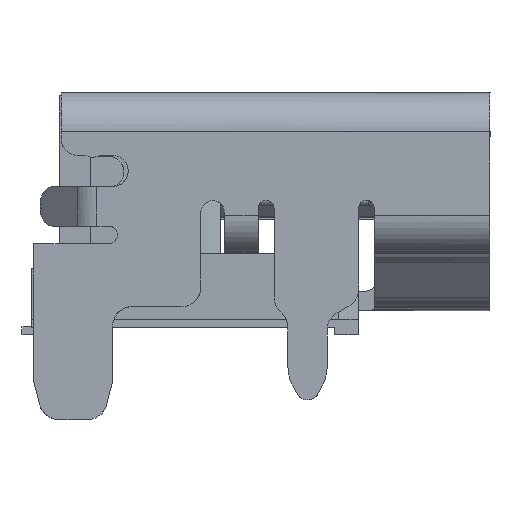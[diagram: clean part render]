
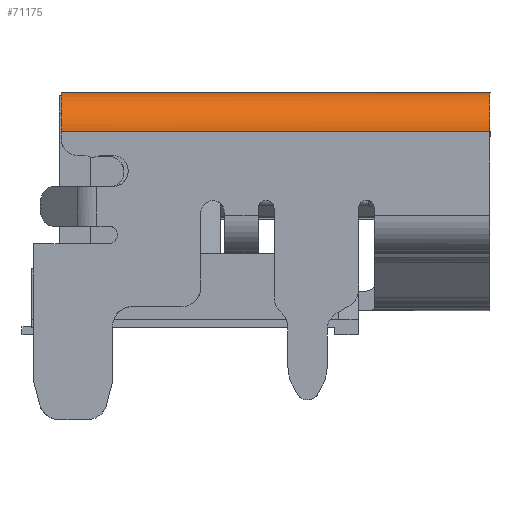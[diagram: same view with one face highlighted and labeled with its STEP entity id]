
A CAD part, left-side view. The second image highlights one B-rep face of the part: STEP entity #71175.
In plain terms, the highlighted free-form (B-spline) face has degree [1, 3] with [2, 4] control points.
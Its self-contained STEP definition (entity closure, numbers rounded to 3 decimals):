
#719 = B_SPLINE_CURVE_WITH_KNOTS ( 'NONE', 1,
 ( #69038, #51546 ),
 .UNSPECIFIED., .F., .F.,
 ( 2, 2 ),
 ( -1., 0. ),
 .UNSPECIFIED. ) ;
#2962 = EDGE_CURVE ( 'NONE', #20711, #57926, #23726, .T. ) ;
#4643 = CARTESIAN_POINT ( 'NONE',  ( -7.301, -6.702, 5.773 ) ) ;
#10678 = CARTESIAN_POINT ( 'NONE',  ( -7.5, 4.198, 5.746 ) ) ;
#13765 = CARTESIAN_POINT ( 'NONE',  ( -6.5, 4.198, 6.16 ) ) ;
#16439 = CARTESIAN_POINT ( 'NONE',  ( -7.5, -6.702, 5.16 ) ) ;
#16473 = ORIENTED_EDGE ( 'NONE', *, *, #69339, .T. ) ;
#20711 = VERTEX_POINT ( 'NONE', #27338 ) ;
#20987 = CARTESIAN_POINT ( 'NONE',  ( -7.5, -6.702, 5.16 ) ) ;
#21138 = CARTESIAN_POINT ( 'NONE',  ( -7.086, 4.198, 6.16 ) ) ;
#23478 = EDGE_LOOP ( 'NONE', ( #43750, #52734, #16473, #56842 ) ) ;
#23726 = B_SPLINE_CURVE_WITH_KNOTS ( 'NONE', 3,
 ( #38050, #65798, #47937, #26043, #60372, #4643, #36631, #31136, #53459, #36970 ),
 .UNSPECIFIED., .F., .F.,
 ( 4, 2, 2, 2, 4 ),
 ( 0., 0.25, 0.5, 0.75, 1. ),
 .UNSPECIFIED. ) ;
#24657 =( BOUNDED_CURVE ( )  B_SPLINE_CURVE ( 3, ( #35484, #57784, #65373, #47521 ),
 .UNSPECIFIED., .F., .F. ) 
 B_SPLINE_CURVE_WITH_KNOTS ( ( 4, 4 ),
 ( -3.142, -1.571 ),
 .UNSPECIFIED. ) 
 CURVE ( )  GEOMETRIC_REPRESENTATION_ITEM ( )  RATIONAL_B_SPLINE_CURVE ( ( 1., 0.805, 0.805, 1. ) ) 
 REPRESENTATION_ITEM ( '' )  );
#26043 = CARTESIAN_POINT ( 'NONE',  ( -7.005, -6.702, 6.033 ) ) ;
#27338 = CARTESIAN_POINT ( 'NONE',  ( -6.5, -6.702, 6.16 ) ) ;
#31136 = CARTESIAN_POINT ( 'NONE',  ( -7.475, -6.702, 5.42 ) ) ;
#32759 = CARTESIAN_POINT ( 'NONE',  ( -7.5, 4.198, 5.16 ) ) ;
#32906 = EDGE_CURVE ( 'NONE', #59553, #20711, #49058, .T. ) ;
#35484 = CARTESIAN_POINT ( 'NONE',  ( -6.5, 4.198, 6.16 ) ) ;
#36631 = CARTESIAN_POINT ( 'NONE',  ( -7.373, -6.702, 5.665 ) ) ;
#36970 = CARTESIAN_POINT ( 'NONE',  ( -7.5, -6.702, 5.16 ) ) ;
#38050 = CARTESIAN_POINT ( 'NONE',  ( -6.5, -6.702, 6.16 ) ) ;
#43750 = ORIENTED_EDGE ( 'NONE', *, *, #32906, .F. ) ;
#44287 = EDGE_CURVE ( 'NONE', #59553, #71964, #24657, .T. ) ;
#47521 = CARTESIAN_POINT ( 'NONE',  ( -7.5, 4.198, 5.16 ) ) ;
#47937 = CARTESIAN_POINT ( 'NONE',  ( -6.76, -6.702, 6.135 ) ) ;
#49058 = B_SPLINE_CURVE_WITH_KNOTS ( 'NONE', 1,
 ( #61030, #49676 ),
 .UNSPECIFIED., .F., .F.,
 ( 2, 2 ),
 ( 0., 1. ),
 .UNSPECIFIED. ) ;
#49676 = CARTESIAN_POINT ( 'NONE',  ( -6.5, -6.702, 6.16 ) ) ;
#51546 = CARTESIAN_POINT ( 'NONE',  ( -7.5, -6.702, 5.16 ) ) ;
#52734 = ORIENTED_EDGE ( 'NONE', *, *, #44287, .T. ) ;
#53459 = CARTESIAN_POINT ( 'NONE',  ( -7.5, -6.702, 5.293 ) ) ;
#53993 = CARTESIAN_POINT ( 'NONE',  ( -6.5, 4.198, 6.16 ) ) ;
#54722 = CARTESIAN_POINT ( 'NONE',  ( -7.5, 4.198, 5.16 ) ) ;
#56842 = ORIENTED_EDGE ( 'NONE', *, *, #2962, .F. ) ;
#57784 = CARTESIAN_POINT ( 'NONE',  ( -7.086, 4.198, 6.16 ) ) ;
#57926 = VERTEX_POINT ( 'NONE', #20987 ) ;
#59553 = VERTEX_POINT ( 'NONE', #13765 ) ;
#59820 = CARTESIAN_POINT ( 'NONE',  ( -6.5, -6.702, 6.16 ) ) ;
#60372 = CARTESIAN_POINT ( 'NONE',  ( -7.113, -6.702, 5.961 ) ) ;
#61030 = CARTESIAN_POINT ( 'NONE',  ( -6.5, 4.198, 6.16 ) ) ;
#64914 = FACE_OUTER_BOUND ( 'NONE', #23478, .T. ) ;
#65373 = CARTESIAN_POINT ( 'NONE',  ( -7.5, 4.198, 5.746 ) ) ;
#65798 = CARTESIAN_POINT ( 'NONE',  ( -6.633, -6.702, 6.16 ) ) ;
#65854 =( BOUNDED_SURFACE ( )  B_SPLINE_SURFACE ( 1, 3, ( 
 ( #53993, #21138, #10678, #54722 ),
 ( #59820, #71796, #66350, #16439 ) ),
 .UNSPECIFIED., .F., .F., .F. ) 
 B_SPLINE_SURFACE_WITH_KNOTS ( ( 2, 2 ),
 ( 4, 4 ),
 ( 0., 1. ),
 ( 0., 1. ),
 .UNSPECIFIED. ) 
 GEOMETRIC_REPRESENTATION_ITEM ( )  RATIONAL_B_SPLINE_SURFACE ( (
 ( 1., 0.805, 0.805, 1.),
 ( 1., 0.805, 0.805, 1.) ) ) 
 REPRESENTATION_ITEM ( '' )  SURFACE ( )  );
#66350 = CARTESIAN_POINT ( 'NONE',  ( -7.5, -6.702, 5.746 ) ) ;
#69038 = CARTESIAN_POINT ( 'NONE',  ( -7.5, 4.198, 5.16 ) ) ;
#69339 = EDGE_CURVE ( 'NONE', #71964, #57926, #719, .T. ) ;
#71175 = ADVANCED_FACE ( 'NONE', ( #64914 ), #65854, .F. ) ;
#71796 = CARTESIAN_POINT ( 'NONE',  ( -7.086, -6.702, 6.16 ) ) ;
#71964 = VERTEX_POINT ( 'NONE', #32759 ) ;
